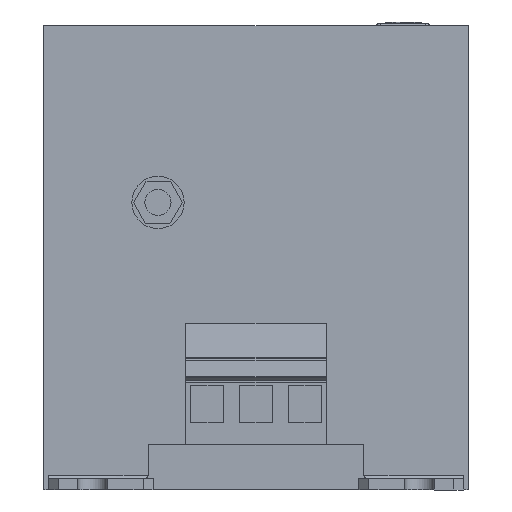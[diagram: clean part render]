
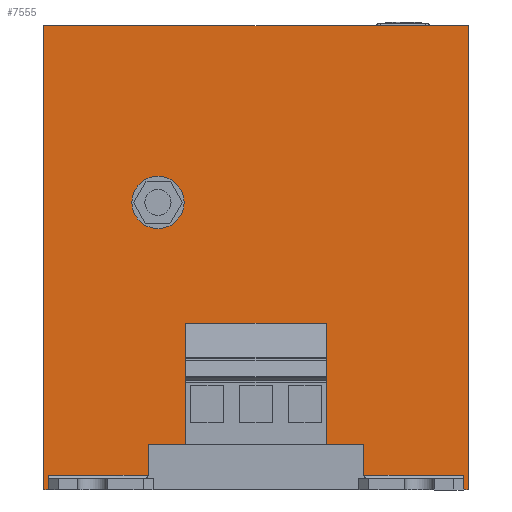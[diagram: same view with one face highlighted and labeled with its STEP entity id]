
A CAD part, front view. The second image highlights one B-rep face of the part: STEP entity #7555.
In plain terms, the highlighted planar face has unit normal (0, -1, 0).
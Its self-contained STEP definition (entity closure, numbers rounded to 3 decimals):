
#19 = VECTOR ( 'NONE', #1718, 1000. ) ;
#165 = CARTESIAN_POINT ( 'NONE',  ( 33., -198.5, 14.01 ) ) ;
#221 = ORIENTED_EDGE ( 'NONE', *, *, #5255, .F. ) ;
#260 = DIRECTION ( 'NONE',  ( 1., 0., 0. ) ) ;
#286 = VECTOR ( 'NONE', #6373, 1000. ) ;
#350 = EDGE_CURVE ( 'NONE', #2944, #5250, #3205, .T. ) ;
#427 = VERTEX_POINT ( 'NONE', #5820 ) ;
#555 = ORIENTED_EDGE ( 'NONE', *, *, #4362, .F. ) ;
#563 = DIRECTION ( 'NONE',  ( 0., 0., 1. ) ) ;
#617 = VERTEX_POINT ( 'NONE', #1031 ) ;
#792 = VECTOR ( 'NONE', #4037, 1000. ) ;
#822 = ORIENTED_EDGE ( 'NONE', *, *, #5199, .T. ) ;
#834 = CARTESIAN_POINT ( 'NONE',  ( 63.3, -198.5, 4.51 ) ) ;
#862 = DIRECTION ( 'NONE',  ( 0., 0., -1. ) ) ;
#885 = ORIENTED_EDGE ( 'NONE', *, *, #350, .F. ) ;
#889 = CARTESIAN_POINT ( 'NONE',  ( -65., -198.5, 0. ) ) ;
#898 = FACE_OUTER_BOUND ( 'NONE', #4935, .T. ) ;
#1015 = DIRECTION ( 'NONE',  ( 1., 0., 0. ) ) ;
#1031 = CARTESIAN_POINT ( 'NONE',  ( -33., -198.5, 14.01 ) ) ;
#1058 = CARTESIAN_POINT ( 'NONE',  ( -65., -198.5, 35.31 ) ) ;
#1070 = VERTEX_POINT ( 'NONE', #5283 ) ;
#1084 = VECTOR ( 'NONE', #3974, 1000. ) ;
#1102 = CARTESIAN_POINT ( 'NONE',  ( -65., -198.5, 142.01 ) ) ;
#1188 = ORIENTED_EDGE ( 'NONE', *, *, #7758, .F. ) ;
#1234 = CARTESIAN_POINT ( 'NONE',  ( -65., -198.5, 0. ) ) ;
#1364 = DIRECTION ( 'NONE',  ( 0., 0., -1. ) ) ;
#1366 = VERTEX_POINT ( 'NONE', #165 ) ;
#1481 = VECTOR ( 'NONE', #1364, 1000. ) ;
#1589 = CARTESIAN_POINT ( 'NONE',  ( 63.5, -198.5, 4.51 ) ) ;
#1632 = LINE ( 'NONE', #6738, #2606 ) ;
#1638 = LINE ( 'NONE', #4248, #19 ) ;
#1718 = DIRECTION ( 'NONE',  ( 0., 0., -1. ) ) ;
#1781 = CARTESIAN_POINT ( 'NONE',  ( -65., -198.5, 0. ) ) ;
#1797 = EDGE_CURVE ( 'NONE', #4538, #5332, #7405, .T. ) ;
#1861 = EDGE_CURVE ( 'NONE', #4093, #2724, #5850, .T. ) ;
#1901 = DIRECTION ( 'NONE',  ( -1., 0., 0. ) ) ;
#1933 = AXIS2_PLACEMENT_3D ( 'NONE', #7875, #3490, #5982 ) ;
#1939 = ORIENTED_EDGE ( 'NONE', *, *, #3002, .F. ) ;
#1940 = CARTESIAN_POINT ( 'NONE',  ( 63.5, -198.5, 0. ) ) ;
#1987 = VECTOR ( 'NONE', #3718, 1000. ) ;
#1989 = CARTESIAN_POINT ( 'NONE',  ( 21.5, -198.5, 14.01 ) ) ;
#2080 = AXIS2_PLACEMENT_3D ( 'NONE', #7781, #6498, #862 ) ;
#2143 = DIRECTION ( 'NONE',  ( -1., 0., 0. ) ) ;
#2150 = DIRECTION ( 'NONE',  ( 0., 0., -1. ) ) ;
#2175 = ORIENTED_EDGE ( 'NONE', *, *, #7975, .F. ) ;
#2248 = LINE ( 'NONE', #1058, #2347 ) ;
#2288 = ORIENTED_EDGE ( 'NONE', *, *, #6277, .T. ) ;
#2314 = EDGE_CURVE ( 'NONE', #617, #3618, #3877, .T. ) ;
#2347 = VECTOR ( 'NONE', #6578, 1000. ) ;
#2465 = VERTEX_POINT ( 'NONE', #5067 ) ;
#2606 = VECTOR ( 'NONE', #1015, 1000. ) ;
#2689 = CARTESIAN_POINT ( 'NONE',  ( 33., -198.5, 4.51 ) ) ;
#2724 = VERTEX_POINT ( 'NONE', #1102 ) ;
#2944 = VERTEX_POINT ( 'NONE', #1940 ) ;
#3002 = EDGE_CURVE ( 'NONE', #5250, #7947, #6204, .T. ) ;
#3170 = CARTESIAN_POINT ( 'NONE',  ( 63.5, -198.5, -216.4 ) ) ;
#3205 = LINE ( 'NONE', #3170, #3672 ) ;
#3224 = EDGE_CURVE ( 'NONE', #3719, #3479, #3628, .T. ) ;
#3242 = CARTESIAN_POINT ( 'NONE',  ( -63.5, -198.5, 0. ) ) ;
#3261 = VECTOR ( 'NONE', #260, 1000. ) ;
#3327 = LINE ( 'NONE', #6392, #3261 ) ;
#3378 = VECTOR ( 'NONE', #2143, 1000. ) ;
#3424 = EDGE_CURVE ( 'NONE', #3618, #4538, #5778, .T. ) ;
#3479 = VERTEX_POINT ( 'NONE', #7165 ) ;
#3490 = DIRECTION ( 'NONE',  ( 0., -1., 0. ) ) ;
#3615 = CARTESIAN_POINT ( 'NONE',  ( -65., -198.5, 14.01 ) ) ;
#3618 = VERTEX_POINT ( 'NONE', #4168 ) ;
#3628 = CIRCLE ( 'NONE', #1933, 8. ) ;
#3672 = VECTOR ( 'NONE', #6158, 1000. ) ;
#3718 = DIRECTION ( 'NONE',  ( -1., 0., 0. ) ) ;
#3719 = VERTEX_POINT ( 'NONE', #5186 ) ;
#3877 = LINE ( 'NONE', #4581, #286 ) ;
#3974 = DIRECTION ( 'NONE',  ( 0., 0., 1. ) ) ;
#4037 = DIRECTION ( 'NONE',  ( 1., 0., 0. ) ) ;
#4093 = VERTEX_POINT ( 'NONE', #1781 ) ;
#4168 = CARTESIAN_POINT ( 'NONE',  ( -33., -198.5, 4.51 ) ) ;
#4221 = EDGE_CURVE ( 'NONE', #7763, #2465, #6401, .T. ) ;
#4248 = CARTESIAN_POINT ( 'NONE',  ( 21.5, -198.5, -216.4 ) ) ;
#4278 = VERTEX_POINT ( 'NONE', #1989 ) ;
#4285 = ORIENTED_EDGE ( 'NONE', *, *, #6508, .F. ) ;
#4359 = CARTESIAN_POINT ( 'NONE',  ( 65., -198.5, -216.4 ) ) ;
#4362 = EDGE_CURVE ( 'NONE', #6943, #427, #7138, .T. ) ;
#4538 = VERTEX_POINT ( 'NONE', #6197 ) ;
#4561 = CARTESIAN_POINT ( 'NONE',  ( -21.5, -198.5, -216.4 ) ) ;
#4581 = CARTESIAN_POINT ( 'NONE',  ( -33., -198.5, -216.4 ) ) ;
#4613 = EDGE_CURVE ( 'NONE', #617, #427, #3327, .T. ) ;
#4700 = VECTOR ( 'NONE', #2150, 1000. ) ;
#4892 = DIRECTION ( 'NONE',  ( 0., -1., 0. ) ) ;
#4934 = CARTESIAN_POINT ( 'NONE',  ( -21.5, -198.5, 35.31 ) ) ;
#4935 = EDGE_LOOP ( 'NONE', ( #5496, #7016, #5123, #6326, #555, #1188, #2288, #822, #5000, #1939, #885, #4285, #7097, #5875, #6303, #2175 ) ) ;
#4984 = VECTOR ( 'NONE', #563, 1000. ) ;
#5000 = ORIENTED_EDGE ( 'NONE', *, *, #6500, .F. ) ;
#5067 = CARTESIAN_POINT ( 'NONE',  ( 65., -198.5, 142.01 ) ) ;
#5097 = CIRCLE ( 'NONE', #5363, 8. ) ;
#5123 = ORIENTED_EDGE ( 'NONE', *, *, #2314, .F. ) ;
#5162 = CARTESIAN_POINT ( 'NONE',  ( -65., -198.5, -216.4 ) ) ;
#5186 = CARTESIAN_POINT ( 'NONE',  ( -30., -198.5, 96.01 ) ) ;
#5199 = EDGE_CURVE ( 'NONE', #4278, #1366, #5452, .T. ) ;
#5217 = VECTOR ( 'NONE', #6359, 1000. ) ;
#5250 = VERTEX_POINT ( 'NONE', #1589 ) ;
#5255 = EDGE_CURVE ( 'NONE', #3479, #3719, #5097, .T. ) ;
#5283 = CARTESIAN_POINT ( 'NONE',  ( 21.5, -198.5, 35.31 ) ) ;
#5332 = VERTEX_POINT ( 'NONE', #3242 ) ;
#5363 = AXIS2_PLACEMENT_3D ( 'NONE', #6574, #4892, #6157 ) ;
#5452 = LINE ( 'NONE', #3615, #792 ) ;
#5496 = ORIENTED_EDGE ( 'NONE', *, *, #1797, .F. ) ;
#5741 = CARTESIAN_POINT ( 'NONE',  ( 63.3, -198.5, 4.51 ) ) ;
#5778 = LINE ( 'NONE', #834, #3378 ) ;
#5820 = CARTESIAN_POINT ( 'NONE',  ( -21.5, -198.5, 14.01 ) ) ;
#5850 = LINE ( 'NONE', #5162, #1084 ) ;
#5875 = ORIENTED_EDGE ( 'NONE', *, *, #7685, .F. ) ;
#5982 = DIRECTION ( 'NONE',  ( 0., 0., -1. ) ) ;
#6157 = DIRECTION ( 'NONE',  ( 0., 0., -1. ) ) ;
#6158 = DIRECTION ( 'NONE',  ( 0., 0., 1. ) ) ;
#6182 = CARTESIAN_POINT ( 'NONE',  ( 33., -198.5, -216.4 ) ) ;
#6197 = CARTESIAN_POINT ( 'NONE',  ( -63.5, -198.5, 4.51 ) ) ;
#6204 = LINE ( 'NONE', #5741, #6247 ) ;
#6247 = VECTOR ( 'NONE', #1901, 1000. ) ;
#6277 = EDGE_CURVE ( 'NONE', #1070, #4278, #1638, .T. ) ;
#6303 = ORIENTED_EDGE ( 'NONE', *, *, #1861, .F. ) ;
#6326 = ORIENTED_EDGE ( 'NONE', *, *, #4613, .T. ) ;
#6359 = DIRECTION ( 'NONE',  ( 0., 0., 1. ) ) ;
#6368 = LINE ( 'NONE', #889, #6925 ) ;
#6373 = DIRECTION ( 'NONE',  ( 0., 0., -1. ) ) ;
#6392 = CARTESIAN_POINT ( 'NONE',  ( -65., -198.5, 14.01 ) ) ;
#6401 = LINE ( 'NONE', #4359, #5217 ) ;
#6498 = DIRECTION ( 'NONE',  ( 0., -1., 0. ) ) ;
#6500 = EDGE_CURVE ( 'NONE', #7947, #1366, #6834, .T. ) ;
#6508 = EDGE_CURVE ( 'NONE', #7763, #2944, #8048, .T. ) ;
#6574 = CARTESIAN_POINT ( 'NONE',  ( -30., -198.5, 88.01 ) ) ;
#6578 = DIRECTION ( 'NONE',  ( -1., 0., 0. ) ) ;
#6696 = CARTESIAN_POINT ( 'NONE',  ( 65., -198.5, 0. ) ) ;
#6738 = CARTESIAN_POINT ( 'NONE',  ( -65., -198.5, 142.01 ) ) ;
#6834 = LINE ( 'NONE', #6182, #4984 ) ;
#6846 = ORIENTED_EDGE ( 'NONE', *, *, #3224, .F. ) ;
#6925 = VECTOR ( 'NONE', #7689, 1000. ) ;
#6943 = VERTEX_POINT ( 'NONE', #4934 ) ;
#6963 = CARTESIAN_POINT ( 'NONE',  ( -63.5, -198.5, -216.4 ) ) ;
#6983 = EDGE_LOOP ( 'NONE', ( #6846, #221 ) ) ;
#7016 = ORIENTED_EDGE ( 'NONE', *, *, #3424, .F. ) ;
#7097 = ORIENTED_EDGE ( 'NONE', *, *, #4221, .T. ) ;
#7138 = LINE ( 'NONE', #4561, #4700 ) ;
#7154 = PLANE ( 'NONE',  #2080 ) ;
#7165 = CARTESIAN_POINT ( 'NONE',  ( -30., -198.5, 80.01 ) ) ;
#7405 = LINE ( 'NONE', #6963, #1481 ) ;
#7555 = ADVANCED_FACE ( 'NONE', ( #7657, #898 ), #7154, .T. ) ;
#7657 = FACE_BOUND ( 'NONE', #6983, .T. ) ;
#7685 = EDGE_CURVE ( 'NONE', #2724, #2465, #1632, .T. ) ;
#7689 = DIRECTION ( 'NONE',  ( -1., 0., 0. ) ) ;
#7758 = EDGE_CURVE ( 'NONE', #1070, #6943, #2248, .T. ) ;
#7763 = VERTEX_POINT ( 'NONE', #6696 ) ;
#7781 = CARTESIAN_POINT ( 'NONE',  ( -65., -198.5, -216.4 ) ) ;
#7875 = CARTESIAN_POINT ( 'NONE',  ( -30., -198.5, 88.01 ) ) ;
#7947 = VERTEX_POINT ( 'NONE', #2689 ) ;
#7975 = EDGE_CURVE ( 'NONE', #5332, #4093, #6368, .T. ) ;
#8048 = LINE ( 'NONE', #1234, #1987 ) ;
